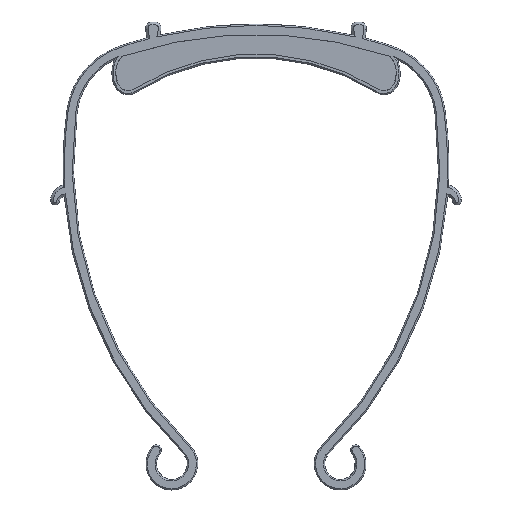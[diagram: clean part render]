
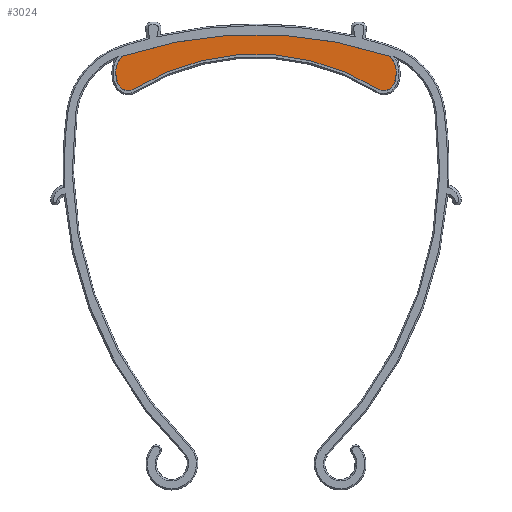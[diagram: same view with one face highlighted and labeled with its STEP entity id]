
A CAD part, top view. The second image highlights one B-rep face of the part: STEP entity #3024.
In plain terms, the highlighted planar face has unit normal (0, 0, 1).
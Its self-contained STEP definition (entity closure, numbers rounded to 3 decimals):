
#650=CARTESIAN_POINT('',(0.016,-70.194,10.6));
#651=DIRECTION('',(0.,0.,1.));
#652=DIRECTION('',(0.532,0.847,0.));
#653=AXIS2_PLACEMENT_3D('',#650,#651,#652);
#655=CARTESIAN_POINT('',(-43.182,-6.717,10.6));
#656=DIRECTION('',(0.,0.,1.));
#657=DIRECTION('',(-0.316,0.949,0.));
#658=AXIS2_PLACEMENT_3D('',#655,#656,#657);
#682=CARTESIAN_POINT('',(-47.389,5.316,10.6));
#683=CARTESIAN_POINT('',(-48.436,4.659,10.6));
#684=CARTESIAN_POINT('',(-50.913,4.554,10.6));
#685=CARTESIAN_POINT('',(-53.018,6.351,10.6));
#686=CARTESIAN_POINT('',(-54.589,9.841,10.6));
#687=CARTESIAN_POINT('',(-54.36,14.63,10.6));
#688=CARTESIAN_POINT('',(-52.767,17.315,10.6));
#689=CARTESIAN_POINT('',(-52.042,18.011,10.6));
#690=CARTESIAN_POINT('',(-51.948,18.094,10.6));
#696=CARTESIAN_POINT('',(0.016,-136.397,10.6));
#697=DIRECTION('',(0.,0.,1.));
#698=DIRECTION('',(0.316,0.949,0.));
#699=AXIS2_PLACEMENT_3D('',#696,#697,#698);
#714=CARTESIAN_POINT('',(43.214,-6.717,10.6));
#715=DIRECTION('',(0.,0.,-1.));
#716=DIRECTION('',(0.316,0.949,0.));
#717=AXIS2_PLACEMENT_3D('',#714,#715,#716);
#741=CARTESIAN_POINT('',(47.421,5.316,10.6));
#742=CARTESIAN_POINT('',(48.468,4.659,10.6));
#743=CARTESIAN_POINT('',(50.945,4.554,10.6));
#744=CARTESIAN_POINT('',(53.05,6.351,10.6));
#745=CARTESIAN_POINT('',(54.621,9.842,10.6));
#746=CARTESIAN_POINT('',(54.392,14.63,10.6));
#747=CARTESIAN_POINT('',(52.799,17.315,10.6));
#748=CARTESIAN_POINT('',(52.074,18.011,10.6));
#749=CARTESIAN_POINT('',(51.98,18.094,10.6));
#2316=CARTESIAN_POINT('',(-51.499,18.248,10.6));
#2317=CARTESIAN_POINT('',(-51.948,18.094,10.6));
#2318=VERTEX_POINT('',#2316);
#2319=VERTEX_POINT('',#2317);
#2320=CARTESIAN_POINT('',(51.531,18.248,10.6));
#2321=VERTEX_POINT('',#2320);
#2322=CARTESIAN_POINT('',(51.98,18.094,10.6));
#2323=VERTEX_POINT('',#2322);
#2324=CARTESIAN_POINT('',(47.421,5.316,10.6));
#2325=CARTESIAN_POINT('',(-47.389,5.316,10.6));
#2326=VERTEX_POINT('',#2324);
#2327=VERTEX_POINT('',#2325);
#3006=CARTESIAN_POINT('',(0.,0.,10.6));
#3007=DIRECTION('',(0.,0.,1.));
#3008=DIRECTION('',(1.,0.,0.));
#3009=AXIS2_PLACEMENT_3D('',#3006,#3007,#3008);
#3010=PLANE('',#3009);
#3012=ORIENTED_EDGE('',*,*,#3011,.F.);
#3014=ORIENTED_EDGE('',*,*,#3013,.F.);
#3016=ORIENTED_EDGE('',*,*,#3015,.T.);
#3018=ORIENTED_EDGE('',*,*,#3017,.F.);
#3019=ORIENTED_EDGE('',*,*,#2996,.T.);
#3021=ORIENTED_EDGE('',*,*,#3020,.T.);
#3022=EDGE_LOOP('',(#3012,#3014,#3016,#3018,#3019,#3021));
#3023=FACE_OUTER_BOUND('',#3022,.F.);
#3024=ADVANCED_FACE('',(#3023),#3010,.T.);
#654=CIRCLE('',#653,89.157);
#659=CIRCLE('',#658,26.314);
#691=B_SPLINE_CURVE_WITH_KNOTS('',3,(#682,#683,#684,#685,#686,#687,#688,#689,
#690),.UNSPECIFIED.,.F.,.F.,(4,1,1,1,1,1,4),(0.,0.229,
0.372,0.514,0.823,0.978,1.),
.UNSPECIFIED.);
#700=CIRCLE('',#699,163.);
#718=CIRCLE('',#717,26.314);
#750=B_SPLINE_CURVE_WITH_KNOTS('',3,(#741,#742,#743,#744,#745,#746,#747,#748,
#749),.UNSPECIFIED.,.F.,.F.,(4,1,1,1,1,1,4),(0.,0.229,
0.372,0.514,0.823,0.978,1.),
.UNSPECIFIED.);
#2996=EDGE_CURVE('',#2326,#2327,#654,.T.);
#3011=EDGE_CURVE('',#2318,#2319,#659,.T.);
#3013=EDGE_CURVE('',#2321,#2318,#700,.T.);
#3015=EDGE_CURVE('',#2321,#2323,#718,.T.);
#3017=EDGE_CURVE('',#2326,#2323,#750,.T.);
#3020=EDGE_CURVE('',#2327,#2319,#691,.T.);
